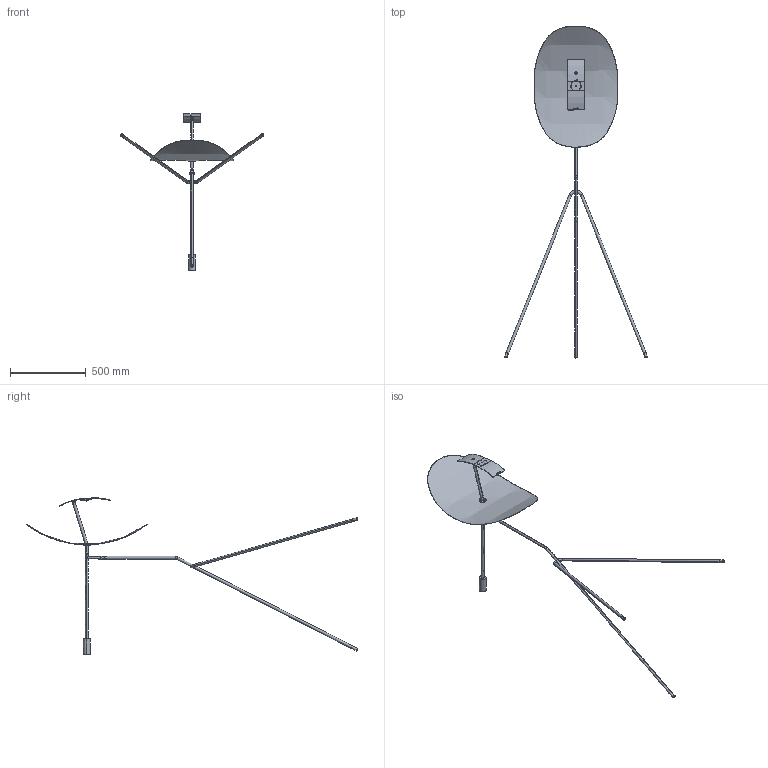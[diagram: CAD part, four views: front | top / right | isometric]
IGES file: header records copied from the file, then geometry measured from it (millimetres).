
Start section: SolidWorks IGES file using analytic representation for surfaces
Global section: file name: C:\VaultDeCastelli\Progetti\DC\PESO LEGGERO PRODOTTI\Ale\DeCastelli-3D-Ribot.igs; native system: SolidWorks 2022; preprocessor: SolidWorks 2022; author: AlessandroP; date: 240719.130119; units: millimetre
Bounding box: 942.47 x 2183.06 x 1028.43 mm (x, y, z)
Surface area: 1214337.1 mm2 (no closed solid volume)
Topology: 0 solids, 0 shells, 232 faces, 4757 edges, 4754 vertices
Faces by surface type: revolution 155, bspline 77
